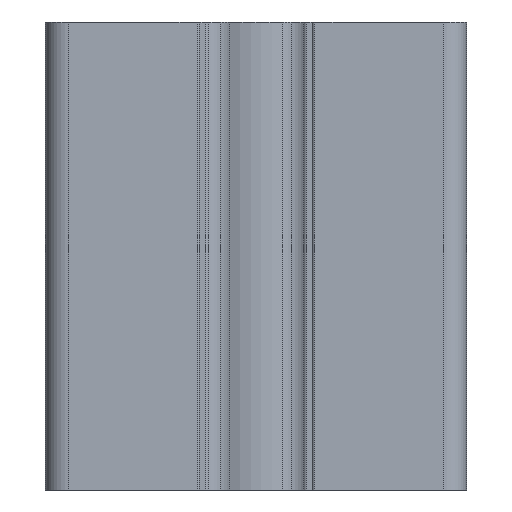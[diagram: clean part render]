
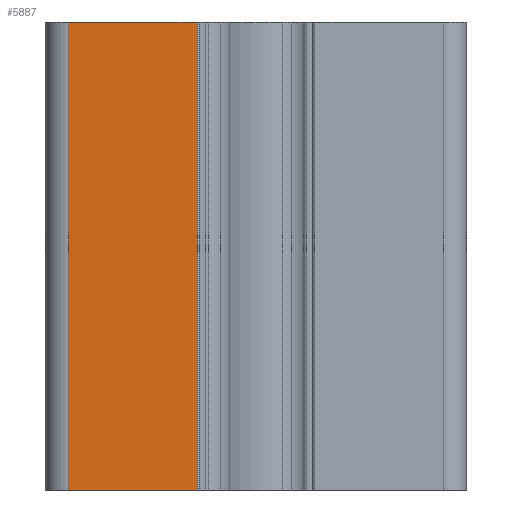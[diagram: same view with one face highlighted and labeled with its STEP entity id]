
A CAD part, left-side view. The second image highlights one B-rep face of the part: STEP entity #5887.
In plain terms, the highlighted planar face has unit normal (-1, 0, 0).
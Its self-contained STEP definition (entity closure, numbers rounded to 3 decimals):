
#254 = DIRECTION ( 'NONE',  ( 0., 0., 1. ) ) ;
#831 = CARTESIAN_POINT ( 'NONE',  ( 105.34, 165.74, 0. ) ) ;
#1327 = LINE ( 'NONE', #831, #4563 ) ;
#1430 = FACE_OUTER_BOUND ( 'NONE', #9306, .T. ) ;
#1765 = DIRECTION ( 'NONE',  ( 0., -1., 0. ) ) ;
#1844 = EDGE_CURVE ( 'NONE', #11772, #7436, #6774, .T. ) ;
#2074 = DIRECTION ( 'NONE',  ( 0., 0., -1. ) ) ;
#2139 = CARTESIAN_POINT ( 'NONE',  ( 105.34, 179.44, 0. ) ) ;
#2527 = VERTEX_POINT ( 'NONE', #6303 ) ;
#4076 = CARTESIAN_POINT ( 'NONE',  ( 105.34, 179.44, 50. ) ) ;
#4210 = DIRECTION ( 'NONE',  ( 0., -1., 0. ) ) ;
#4563 = VECTOR ( 'NONE', #1765, 1000. ) ;
#4593 = EDGE_CURVE ( 'NONE', #7436, #2527, #1327, .T. ) ;
#4634 = CARTESIAN_POINT ( 'NONE',  ( 105.34, 179.44, 0. ) ) ;
#4737 = AXIS2_PLACEMENT_3D ( 'NONE', #4941, #11572, #254 ) ;
#4934 = ORIENTED_EDGE ( 'NONE', *, *, #10655, .T. ) ;
#4941 = CARTESIAN_POINT ( 'NONE',  ( 105.34, 165.74, 0. ) ) ;
#5887 = ADVANCED_FACE ( 'NONE', ( #1430 ), #10641, .T. ) ;
#6303 = CARTESIAN_POINT ( 'NONE',  ( 105.34, 165.74, 0. ) ) ;
#6714 = DIRECTION ( 'NONE',  ( 0., 0., 1. ) ) ;
#6774 = LINE ( 'NONE', #2139, #8375 ) ;
#6803 = ORIENTED_EDGE ( 'NONE', *, *, #9762, .F. ) ;
#7036 = CARTESIAN_POINT ( 'NONE',  ( 105.34, 165.74, 50. ) ) ;
#7436 = VERTEX_POINT ( 'NONE', #4634 ) ;
#7473 = ORIENTED_EDGE ( 'NONE', *, *, #4593, .T. ) ;
#8004 = LINE ( 'NONE', #11526, #10852 ) ;
#8268 = ORIENTED_EDGE ( 'NONE', *, *, #1844, .T. ) ;
#8375 = VECTOR ( 'NONE', #2074, 1000. ) ;
#9011 = VERTEX_POINT ( 'NONE', #7036 ) ;
#9306 = EDGE_LOOP ( 'NONE', ( #4934, #6803, #8268, #7473 ) ) ;
#9762 = EDGE_CURVE ( 'NONE', #11772, #9011, #10713, .T. ) ;
#10439 = VECTOR ( 'NONE', #4210, 1000. ) ;
#10641 = PLANE ( 'NONE',  #4737 ) ;
#10655 = EDGE_CURVE ( 'NONE', #2527, #9011, #8004, .T. ) ;
#10713 = LINE ( 'NONE', #10755, #10439 ) ;
#10755 = CARTESIAN_POINT ( 'NONE',  ( 105.34, 179.44, 50. ) ) ;
#10852 = VECTOR ( 'NONE', #6714, 1000. ) ;
#11526 = CARTESIAN_POINT ( 'NONE',  ( 105.34, 165.74, 0. ) ) ;
#11572 = DIRECTION ( 'NONE',  ( -1., 0., 0. ) ) ;
#11772 = VERTEX_POINT ( 'NONE', #4076 ) ;
